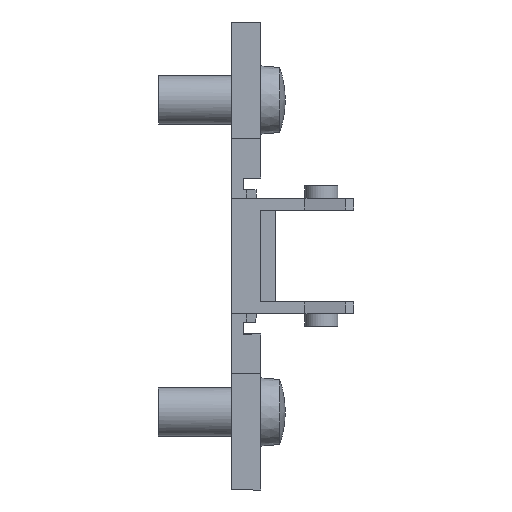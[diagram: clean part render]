
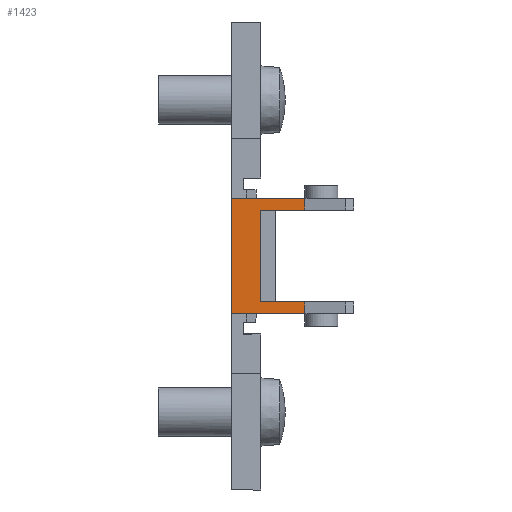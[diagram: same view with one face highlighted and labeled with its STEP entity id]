
A CAD part, front view. The second image highlights one B-rep face of the part: STEP entity #1423.
In plain terms, the highlighted planar face has unit normal (0, -1, 0).
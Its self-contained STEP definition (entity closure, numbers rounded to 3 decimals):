
#139 = ORIENTED_EDGE ( 'NONE', *, *, #3118, .F. ) ;
#140 = ORIENTED_EDGE ( 'NONE', *, *, #3506, .F. ) ;
#141 = ORIENTED_EDGE ( 'NONE', *, *, #3201, .T. ) ;
#142 = ORIENTED_EDGE ( 'NONE', *, *, #3369, .T. ) ;
#143 = ORIENTED_EDGE ( 'NONE', *, *, #3462, .T. ) ;
#144 = ORIENTED_EDGE ( 'NONE', *, *, #3119, .F. ) ;
#145 = ORIENTED_EDGE ( 'NONE', *, *, #3033, .T. ) ;
#146 = ORIENTED_EDGE ( 'NONE', *, *, #3256, .F. ) ;
#567 = EDGE_LOOP ( 'NONE', ( #146, #145, #144, #143, #142, #141, #140, #139 ) ) ;
#846 = FACE_OUTER_BOUND ( 'NONE', #567, .T. ) ;
#1012 = LINE ( 'NONE', #3681, #1019 ) ;
#1019 = VECTOR ( 'NONE', #3685, 1000. ) ;
#1123 = LINE ( 'NONE', #3815, #1130 ) ;
#1125 = LINE ( 'NONE', #3819, #1132 ) ;
#1130 = VECTOR ( 'NONE', #3820, 1000. ) ;
#1132 = VECTOR ( 'NONE', #3822, 1000. ) ;
#1237 = LINE ( 'NONE', #3939, #1238 ) ;
#1238 = VECTOR ( 'NONE', #3940, 1000. ) ;
#1285 = VECTOR ( 'NONE', #4022, 1000. ) ;
#1286 = LINE ( 'NONE', #4021, #1285 ) ;
#1423 = ADVANCED_FACE ( 'NONE', ( #846 ), #2552, .T. ) ;
#1505 = VERTEX_POINT ( 'NONE', #2667 ) ;
#1506 = VERTEX_POINT ( 'NONE', #2413 ) ;
#1507 = VERTEX_POINT ( 'NONE', #2633 ) ;
#1508 = VERTEX_POINT ( 'NONE', #2419 ) ;
#1509 = VERTEX_POINT ( 'NONE', #2431 ) ;
#1510 = VERTEX_POINT ( 'NONE', #2470 ) ;
#1511 = VERTEX_POINT ( 'NONE', #2468 ) ;
#1512 = VERTEX_POINT ( 'NONE', #2467 ) ;
#2131 = LINE ( 'NONE', #4157, #2132 ) ;
#2132 = VECTOR ( 'NONE', #4158, 1000. ) ;
#2239 = LINE ( 'NONE', #4287, #2240 ) ;
#2240 = VECTOR ( 'NONE', #4288, 1000. ) ;
#2278 = LINE ( 'NONE', #4355, #2281 ) ;
#2281 = VECTOR ( 'NONE', #4356, 1000. ) ;
#2413 = CARTESIAN_POINT ( 'NONE',  ( 3., -16.55, -4.7 ) ) ;
#2419 = CARTESIAN_POINT ( 'NONE',  ( 7.523, -16.55, 5.9 ) ) ;
#2431 = CARTESIAN_POINT ( 'NONE',  ( 0., -16.55, 5.9 ) ) ;
#2467 = CARTESIAN_POINT ( 'NONE',  ( 7.523, -16.55, -4.7 ) ) ;
#2468 = CARTESIAN_POINT ( 'NONE',  ( 7.523, -16.55, -5.9 ) ) ;
#2470 = CARTESIAN_POINT ( 'NONE',  ( 0., -16.55, -5.9 ) ) ;
#2522 = DIRECTION ( 'NONE',  ( -1., 0., 0. ) ) ;
#2548 = CARTESIAN_POINT ( 'NONE',  ( 12.5, -16.55, -5.9 ) ) ;
#2552 = PLANE ( 'NONE',  #2983 ) ;
#2633 = CARTESIAN_POINT ( 'NONE',  ( 7.523, -16.55, 4.7 ) ) ;
#2647 = DIRECTION ( 'NONE',  ( 0., -1., 0. ) ) ;
#2667 = CARTESIAN_POINT ( 'NONE',  ( 3., -16.55, 4.7 ) ) ;
#2983 = AXIS2_PLACEMENT_3D ( 'NONE', #2548, #2647, #2522 ) ;
#3033 = EDGE_CURVE ( 'NONE', #1505, #1507, #1012, .T. ) ;
#3118 = EDGE_CURVE ( 'NONE', #1506, #1512, #1123, .T. ) ;
#3119 = EDGE_CURVE ( 'NONE', #1508, #1507, #1125, .T. ) ;
#3201 = EDGE_CURVE ( 'NONE', #1510, #1511, #1237, .T. ) ;
#3256 = EDGE_CURVE ( 'NONE', #1505, #1506, #1286, .T. ) ;
#3369 = EDGE_CURVE ( 'NONE', #1509, #1510, #2131, .T. ) ;
#3462 = EDGE_CURVE ( 'NONE', #1508, #1509, #2239, .T. ) ;
#3506 = EDGE_CURVE ( 'NONE', #1512, #1511, #2278, .T. ) ;
#3681 = CARTESIAN_POINT ( 'NONE',  ( 12.5, -16.55, 4.7 ) ) ;
#3685 = DIRECTION ( 'NONE',  ( 1., 0., 0. ) ) ;
#3815 = CARTESIAN_POINT ( 'NONE',  ( 12.5, -16.55, -4.7 ) ) ;
#3819 = CARTESIAN_POINT ( 'NONE',  ( 7.523, -16.55, 67.733 ) ) ;
#3820 = DIRECTION ( 'NONE',  ( 1., 0., 0. ) ) ;
#3822 = DIRECTION ( 'NONE',  ( 0., 0., -1. ) ) ;
#3939 = CARTESIAN_POINT ( 'NONE',  ( 1.5, -16.55, -5.9 ) ) ;
#3940 = DIRECTION ( 'NONE',  ( 1., 0., 0. ) ) ;
#4021 = CARTESIAN_POINT ( 'NONE',  ( 3., -16.55, -5.9 ) ) ;
#4022 = DIRECTION ( 'NONE',  ( 0., 0., -1. ) ) ;
#4157 = CARTESIAN_POINT ( 'NONE',  ( 0., -16.55, 15.37 ) ) ;
#4158 = DIRECTION ( 'NONE',  ( 0., 0., -1. ) ) ;
#4287 = CARTESIAN_POINT ( 'NONE',  ( 12.5, -16.55, 5.9 ) ) ;
#4288 = DIRECTION ( 'NONE',  ( -1., 0., 0. ) ) ;
#4355 = CARTESIAN_POINT ( 'NONE',  ( 7.523, -16.55, 67.733 ) ) ;
#4356 = DIRECTION ( 'NONE',  ( 0., 0., -1. ) ) ;
